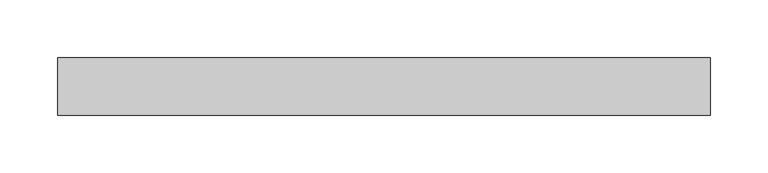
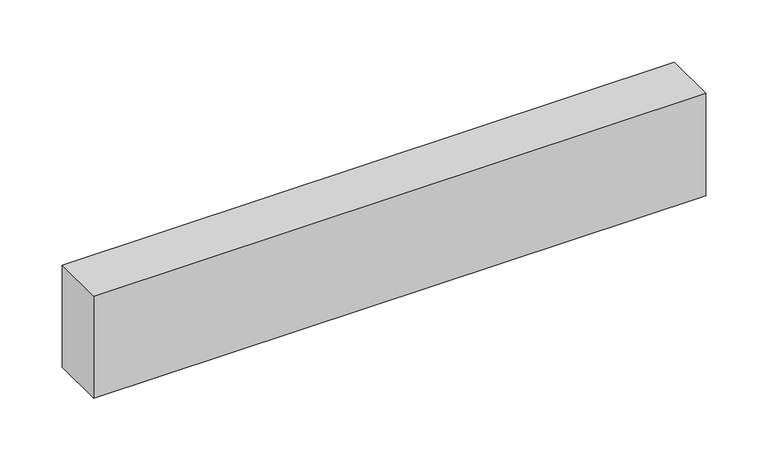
"""IFC4 building model written with IfcOpenShell, lengths in millimetres: light fixture geometry, ZYR_06.02.05 Tira Led : Tira Led 03."""

from ifc_helpers import new_model, si_unit, origin, origin_with_axes, place, context, project, spatial, polyline, outline, extrude, source, transform, mapped, element, save


def light_fixture_7d11ec4e(model_context):
    return source(origin(), model_context, "Body", "SweptSolid", [
        extrude(outline(polyline([(283.079727, 25.0), (283.079727, -25.0), (-283.079727, -25.0), (-283.079727, 25.0), (283.079727, 25.0)])), origin_with_axes(), (0.0, 0.0, 1.0), 100.0),
    ])


if __name__ == "__main__":
    model = new_model("IFC4")
    model_context = context("Model", 3, world=origin())
    ifc_project = project(units=[si_unit("LENGTHUNIT", "METRE", prefix="MILLI")], contexts=[model_context])
    site = spatial("IfcSite", under=ifc_project)
    building = spatial("IfcBuilding", under=site)
    placement = place(None, origin())
    light_fixture_shape = light_fixture_7d11ec4e(model_context)
    element("IfcLightFixture", 1, ObjectType="ZYR_06.02.05 Tira Led : Tira Led 03", at=placement, inside=building, context=model_context, shape_type="MappedRepresentation", body=[
        mapped(light_fixture_shape, transform((0.0, 0.0, 0.0), x_axis=(1.0, 0.0, 0.0), y_axis=(0.0, 1.0, 0.0), z_axis=(0.0, 0.0, 1.0))),
    ])
    save(model, "model.ifc")
